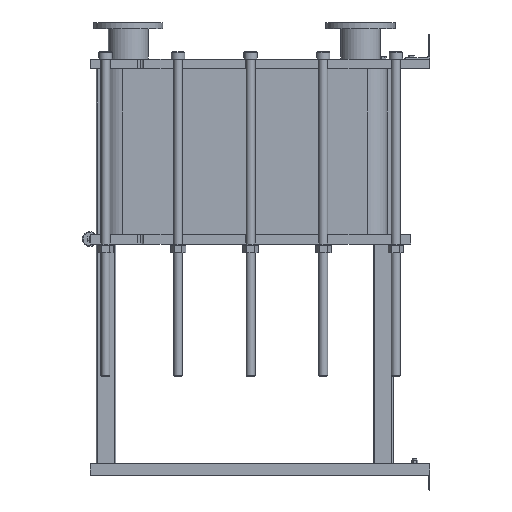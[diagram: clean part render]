
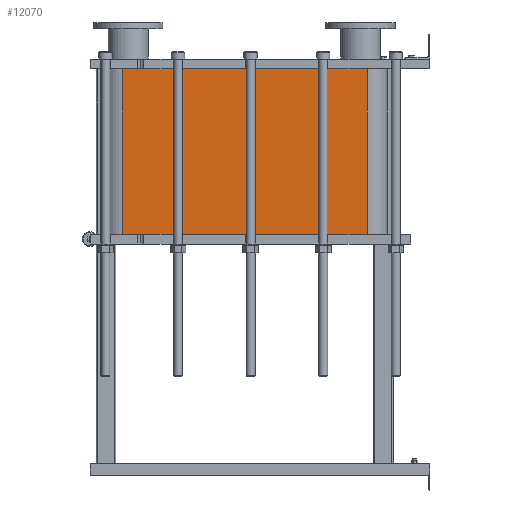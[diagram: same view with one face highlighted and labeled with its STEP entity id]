
A CAD part, left-side view. The second image highlights one B-rep face of the part: STEP entity #12070.
In plain terms, the highlighted planar face has unit normal (-1, 0, 0).
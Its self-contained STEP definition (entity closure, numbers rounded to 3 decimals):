
#1064=LINE('',#21140,#2164);
#1065=LINE('',#21144,#2165);
#1066=LINE('',#21146,#2166);
#1067=LINE('',#21147,#2167);
#2164=VECTOR('',#15790,10.);
#2165=VECTOR('',#15795,10.);
#2166=VECTOR('',#15796,10.);
#2167=VECTOR('',#15797,10.);
#3304=FACE_OUTER_BOUND('',#4091,.T.);
#4091=EDGE_LOOP('',(#9793,#9794,#9795,#9796));
#5677=VERTEX_POINT('',#21137);
#5678=VERTEX_POINT('',#21139);
#5679=VERTEX_POINT('',#21143);
#5680=VERTEX_POINT('',#21145);
#7118=EDGE_CURVE('',#5678,#5677,#1064,.T.);
#7120=EDGE_CURVE('',#5677,#5679,#1065,.T.);
#7121=EDGE_CURVE('',#5680,#5679,#1066,.T.);
#7122=EDGE_CURVE('',#5680,#5678,#1067,.T.);
#9793=ORIENTED_EDGE('',*,*,#7120,.T.);
#9794=ORIENTED_EDGE('',*,*,#7121,.F.);
#9795=ORIENTED_EDGE('',*,*,#7122,.T.);
#9796=ORIENTED_EDGE('',*,*,#7118,.T.);
#11441=PLANE('',#13191);
#12070=ADVANCED_FACE('',(#3304),#11441,.T.);
#13191=AXIS2_PLACEMENT_3D('',#21142,#15793,#15794);
#15790=DIRECTION('',(0.,0.,-1.));
#15793=DIRECTION('center_axis',(-1.,0.,0.));
#15794=DIRECTION('ref_axis',(0.,1.,0.));
#15795=DIRECTION('',(0.,-1.,0.));
#15796=DIRECTION('',(0.,0.,-1.));
#15797=DIRECTION('',(0.,1.,0.));
#21137=CARTESIAN_POINT('',(-248.152,1243.818,-669.3));
#21139=CARTESIAN_POINT('',(-248.152,1243.818,0.));
#21140=CARTESIAN_POINT('',(-248.152,1243.818,0.));
#21142=CARTESIAN_POINT('Origin',(-248.152,251.818,0.));
#21143=CARTESIAN_POINT('',(-248.152,251.818,-669.3));
#21144=CARTESIAN_POINT('',(-248.152,499.818,-669.3));
#21145=CARTESIAN_POINT('',(-248.152,251.818,0.));
#21146=CARTESIAN_POINT('',(-248.152,251.818,0.));
#21147=CARTESIAN_POINT('',(-248.152,251.818,0.));
